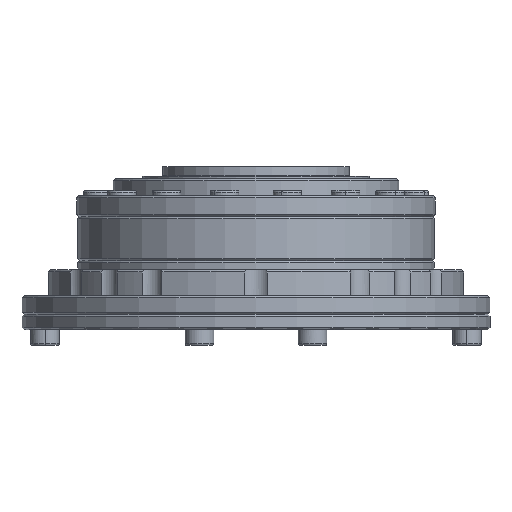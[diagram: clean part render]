
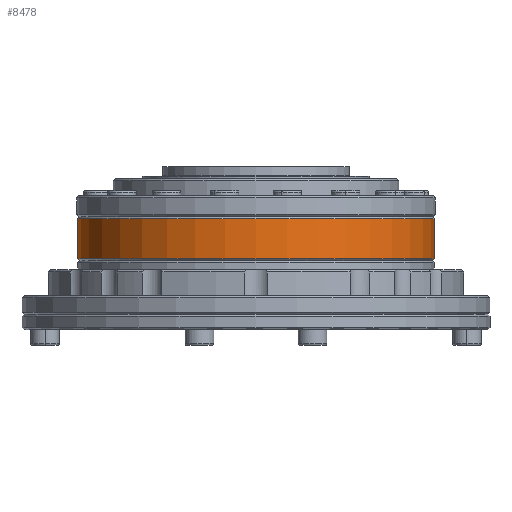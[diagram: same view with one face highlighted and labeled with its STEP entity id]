
A CAD part, left-side view. The second image highlights one B-rep face of the part: STEP entity #8478.
In plain terms, the highlighted cylindrical face has radius 34.25 mm (diameter 68.5 mm), a partial arc.
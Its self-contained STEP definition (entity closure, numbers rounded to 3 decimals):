
#2183 = DIRECTION ( 'NONE',  ( 0., 0., -1. ) ) ;
#4147 = VERTEX_POINT ( 'NONE', #22370 ) ;
#4183 = DIRECTION ( 'NONE',  ( 0., 0., -1. ) ) ;
#4514 = EDGE_CURVE ( 'NONE', #19287, #26584, #35321, .T. ) ;
#4566 = AXIS2_PLACEMENT_3D ( 'NONE', #5600, #20316, #32074 ) ;
#5291 = ORIENTED_EDGE ( 'NONE', *, *, #9163, .F. ) ;
#5600 = CARTESIAN_POINT ( 'NONE',  ( 0., 0., -8.15 ) ) ;
#6966 = CARTESIAN_POINT ( 'NONE',  ( 0., 0., -31.5 ) ) ;
#7142 = CYLINDRICAL_SURFACE ( 'NONE', #32802, 34.25 ) ;
#7685 = EDGE_CURVE ( 'NONE', #4147, #19287, #33749, .T. ) ;
#8043 = CARTESIAN_POINT ( 'NONE',  ( 0., 0., -15.85 ) ) ;
#8124 = CARTESIAN_POINT ( 'NONE',  ( 0., 34.25, -15.85 ) ) ;
#8478 = ADVANCED_FACE ( 'NONE', ( #13090 ), #7142, .T. ) ;
#8567 = ORIENTED_EDGE ( 'NONE', *, *, #7685, .T. ) ;
#9163 = EDGE_CURVE ( 'NONE', #17000, #26584, #37454, .T. ) ;
#9305 = VECTOR ( 'NONE', #24879, 1000. ) ;
#12611 = EDGE_CURVE ( 'NONE', #4147, #17000, #12982, .T. ) ;
#12982 = LINE ( 'NONE', #21846, #9305 ) ;
#12993 = AXIS2_PLACEMENT_3D ( 'NONE', #8043, #2183, #19681 ) ;
#13090 = FACE_OUTER_BOUND ( 'NONE', #26838, .T. ) ;
#14492 = CARTESIAN_POINT ( 'NONE',  ( 0., 34.25, -31.5 ) ) ;
#17000 = VERTEX_POINT ( 'NONE', #34330 ) ;
#18980 = DIRECTION ( 'NONE',  ( 0., -1., 0. ) ) ;
#19287 = VERTEX_POINT ( 'NONE', #34929 ) ;
#19681 = DIRECTION ( 'NONE',  ( 0., -1., 0. ) ) ;
#20316 = DIRECTION ( 'NONE',  ( 0., 0., -1. ) ) ;
#21846 = CARTESIAN_POINT ( 'NONE',  ( 0., -34.25, -31.5 ) ) ;
#22370 = CARTESIAN_POINT ( 'NONE',  ( 0., -34.25, -8.15 ) ) ;
#24168 = ORIENTED_EDGE ( 'NONE', *, *, #4514, .T. ) ;
#24580 = DIRECTION ( 'NONE',  ( 0., 0., -1. ) ) ;
#24879 = DIRECTION ( 'NONE',  ( 0., 0., -1. ) ) ;
#26584 = VERTEX_POINT ( 'NONE', #8124 ) ;
#26838 = EDGE_LOOP ( 'NONE', ( #8567, #24168, #5291, #33381 ) ) ;
#32074 = DIRECTION ( 'NONE',  ( 0., -1., 0. ) ) ;
#32802 = AXIS2_PLACEMENT_3D ( 'NONE', #6966, #24580, #18980 ) ;
#33381 = ORIENTED_EDGE ( 'NONE', *, *, #12611, .F. ) ;
#33749 = CIRCLE ( 'NONE', #4566, 34.25 ) ;
#34330 = CARTESIAN_POINT ( 'NONE',  ( 0., -34.25, -15.85 ) ) ;
#34390 = VECTOR ( 'NONE', #4183, 1000. ) ;
#34929 = CARTESIAN_POINT ( 'NONE',  ( 0., 34.25, -8.15 ) ) ;
#35321 = LINE ( 'NONE', #14492, #34390 ) ;
#37454 = CIRCLE ( 'NONE', #12993, 34.25 ) ;
